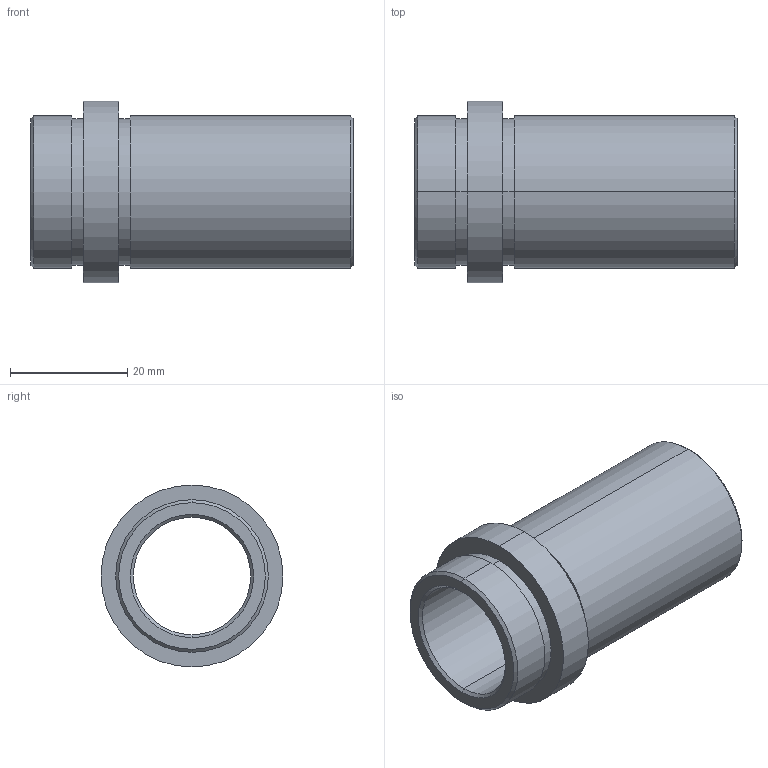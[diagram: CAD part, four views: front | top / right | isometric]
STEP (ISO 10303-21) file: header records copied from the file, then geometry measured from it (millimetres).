
FILE_DESCRIPTION( ( 'STEP AP203' ), '1' );
FILE_NAME( 'D:/Delta 3 D/D21/D21 - 20x46.step', '2002-12-31T22:39:40', ( ' ' ), ( ' ' ), 'XStep 1.0', ' ', ' ' );
FILE_SCHEMA( ( 'CONFIG_CONTROL_DESIGN' ) );
Length unit declared in the file: metre
Products named in the file (1): 1
Bounding box: 55 x 31 x 31 mm (x, y, z)
Volume: 13069 mm3; surface area: 8986.7 mm2
Topology: 1 solids, 1 shells, 26 faces, 52 edges, 32 vertices
Faces by surface type: revolution 20, bspline 6
Entity records: 773 total; most frequent: CARTESIAN_POINT 169, DIRECTION 106, ORIENTED_EDGE 104, EDGE_CURVE 52, AXIS2_PLACEMENT_3D 33, EDGE_LOOP 32, VERTEX_POINT 32, CIRCLE 32
